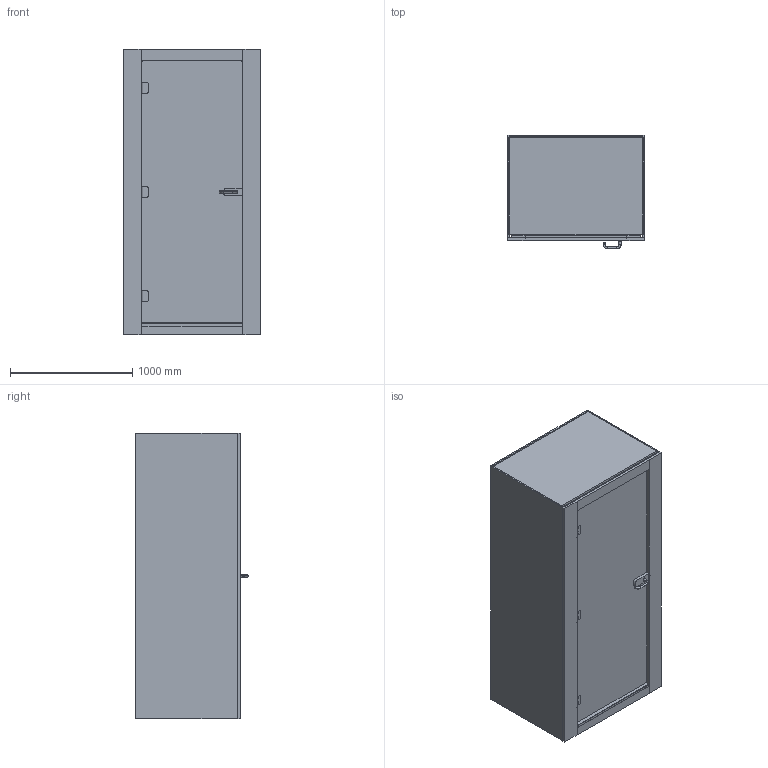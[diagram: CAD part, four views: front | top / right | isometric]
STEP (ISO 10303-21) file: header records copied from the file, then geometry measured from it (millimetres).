
FILE_DESCRIPTION(/* description */ (''),/* implementation_level */ '2;1');
FILE_NAME(/* name */ 'Classic Booth',/* time_stamp */ '2026-06-22T11:05:37+12:00',/* author */ (''),/* organization */ (''),/* preprocessor_version */ 'ST-DEVELOPER v19.2',/* originating_system */ 'Rhino 8.31',/* authorisation */ '');
FILE_SCHEMA (('CONFIG_CONTROL_DESIGN'));
Length unit declared in the file: millimetre
Products named in the file (1): Document
Bounding box: 1120.01 x 926.2 x 2341.21 mm (x, y, z)
Volume: 312022512.4 mm3; surface area: 47108260.7 mm2
Topology: 43 solids, 56 shells, 548 faces, 1332 edges, 893 vertices
Faces by surface type: plane 309, cylinder 174, bspline 65
Entity records: 18082 total; most frequent: CARTESIAN_POINT 7156, ORIENTED_EDGE 2582, EDGE_CURVE 1308, DIRECTION 1271, AXIS2_PLACEMENT_3D 877, VERTEX_POINT 860, EDGE_LOOP 705, B_SPLINE_CURVE_WITH_KNOTS 626
